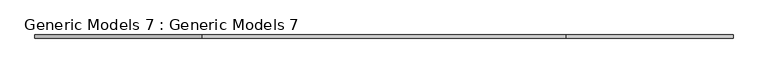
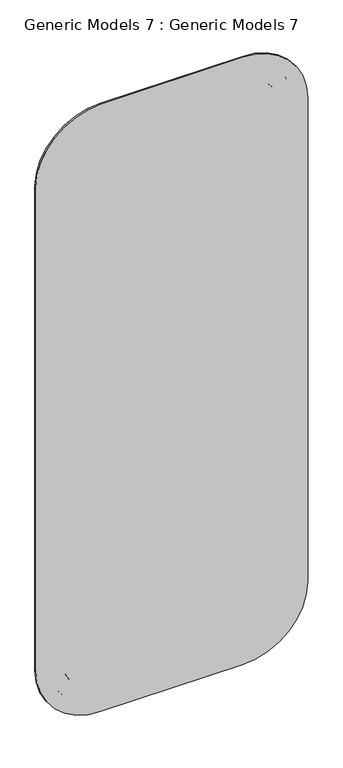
"""IFC4 building model written with IfcOpenShell, lengths in millimetres: proxy geometry, Generic Models 7 : Generic Models 7."""

from ifc_helpers import new_model, si_unit, frame, origin, place, context, project, spatial, polyline, circle_curve, source, transform, mapped, element, save
from ifc_brep_helpers import plane_surface, cylinder_surface, revolved_surface, advanced_brep


def generic_models_7_generic_models_7_d57c916e(model_context):
    return source(origin(), model_context, "Body", "AdvancedBrep", [
        advanced_brep(
        [(1141.8449565, -8160.4040425, 2500.0), (1661.8449565, -8160.4040425, 2500.0), (1901.8449565, -8160.4040425, 2260.0), (1901.8449565, -8160.4040425, 379.9646491), (1661.8449565, -8160.4040425, 139.9646491), (1141.8449565, -8160.4040425, 139.9646491), (901.8449565, -8160.4040425, 379.9646491), (901.8449565, -8160.4040425, 2260.0), (1851.8449565, -8160.4040425, 2260.0), (1661.8449565, -8160.4040425, 2450.0), (1141.8449565, -8160.4040425, 2450.0), (951.8449565, -8160.4040425, 2260.0), (951.8449565, -8160.4040425, 379.9646491), (1141.8449565, -8160.4040425, 189.9646491), (1661.8449565, -8160.4040425, 189.9646491), (1851.8449565, -8160.4040425, 379.9646491), (1661.8449565, -8160.4040425, 2400.0), (1801.8449565, -8160.4040425, 2260.0), (1801.8449565, -8160.4040425, 379.9646491), (1661.8449565, -8160.4040425, 239.9646491), (1141.8449565, -8160.4040425, 239.9646491), (1001.8449565, -8160.4040425, 379.9646491), (1001.8449565, -8160.4040425, 2260.0), (1141.8449565, -8160.4040425, 2400.0), (1141.8449565, -8165.4040425, 2500.0), (901.8449565, -8165.4040425, 2260.0), (901.8449565, -8165.4040425, 379.9646491), (1141.8449565, -8165.4040425, 139.9646491), (1661.8449565, -8165.4040425, 139.9646491), (1901.8449565, -8165.4040425, 379.9646491), (1901.8449565, -8165.4040425, 2260.0), (1661.8449565, -8165.4040425, 2500.0), (1851.8449565, -8162.4040425, 2260.0), (1661.8449565, -8162.4040425, 2450.0), (1801.8449565, -8162.4040425, 2260.0), (1661.8449565, -8162.4040425, 2400.0), (1851.8449565, -8162.4040425, 379.9646491), (1801.8449565, -8162.4040425, 379.9646491), (1661.8449565, -8162.4040425, 189.9646491), (1661.8449565, -8162.4040425, 239.9646491), (1141.8449565, -8162.4040425, 189.9646491), (1141.8449565, -8162.4040425, 239.9646491), (951.8449565, -8162.4040425, 379.9646491), (1001.8449565, -8162.4040425, 379.9646491), (951.8449565, -8162.4040425, 2260.0), (1001.8449565, -8162.4040425, 2260.0), (1141.8449565, -8162.4040425, 2450.0), (1141.8449565, -8162.4040425, 2400.0)],
        [
            (0, 1),
            (1, 2, circle_curve(frame((1661.8449565, -8160.4040425, 2260.0), z_axis=(0.0, 1.0, 0.0), x_axis=(-1.0, 0.0, 0.0)), 240.0)),
            (2, 3),
            (3, 4, circle_curve(frame((1661.8449565, -8160.4040425, 379.9646491), z_axis=(0.0, 1.0, 0.0), x_axis=(-1.0, 0.0, 0.0)), 240.0)),
            (4, 5),
            (5, 6, circle_curve(frame((1141.8449565, -8160.4040425, 379.9646491), z_axis=(0.0, 1.0, 0.0), x_axis=(-1.0, 0.0, 0.0)), 240.0)),
            (6, 7),
            (7, 0, circle_curve(frame((1141.8449565, -8160.4040425, 2260.0), z_axis=(0.0, 1.0, 0.0), x_axis=(-1.0, 0.0, 0.0)), 240.0)),
            (8, 9, circle_curve(frame((1661.8449565, -8160.4040425, 2260.0), z_axis=(0.0, -1.0, 0.0), x_axis=(0.0, 0.0, 1.0)), 190.0)),
            (9, 10),
            (10, 11, circle_curve(frame((1141.8449565, -8160.4040425, 2260.0), z_axis=(0.0, -1.0, 0.0), x_axis=(-1.0, 0.0, 0.0)), 190.0)),
            (11, 12),
            (12, 13, circle_curve(frame((1141.8449565, -8160.4040425, 379.9646491), z_axis=(0.0, -1.0, 0.0), x_axis=(0.0, 0.0, -1.0)), 190.0)),
            (13, 14),
            (14, 15, circle_curve(frame((1661.8449565, -8160.4040425, 379.9646491), z_axis=(0.0, -1.0, 0.0), x_axis=(1.0, 0.0, 0.0)), 190.0)),
            (15, 8),
            (16, 17, circle_curve(frame((1661.8449565, -8160.4040425, 2260.0), z_axis=(0.0, 1.0, 0.0), x_axis=(0.0, 0.0, 1.0)), 140.0)),
            (17, 18),
            (18, 19, circle_curve(frame((1661.8449565, -8160.4040425, 379.9646491), z_axis=(0.0, 1.0, 0.0), x_axis=(1.0, 0.0, 0.0)), 140.0)),
            (19, 20),
            (20, 21, circle_curve(frame((1141.8449565, -8160.4040425, 379.9646491), z_axis=(0.0, 1.0, 0.0), x_axis=(0.0, 0.0, -1.0)), 140.0)),
            (21, 22),
            (22, 23, circle_curve(frame((1141.8449565, -8160.4040425, 2260.0), z_axis=(0.0, 1.0, 0.0), x_axis=(-1.0, 0.0, 0.0)), 140.0)),
            (23, 16),
            (24, 25, circle_curve(frame((1141.8449565, -8165.4040425, 2260.0), z_axis=(0.0, -1.0, 0.0), x_axis=(-1.0, 0.0, 0.0)), 240.0)),
            (25, 26),
            (26, 27, circle_curve(frame((1141.8449565, -8165.4040425, 379.9646491), z_axis=(0.0, -1.0, 0.0), x_axis=(-1.0, 0.0, 0.0)), 240.0)),
            (27, 28),
            (28, 29, circle_curve(frame((1661.8449565, -8165.4040425, 379.9646491), z_axis=(0.0, -1.0, 0.0), x_axis=(-1.0, 0.0, 0.0)), 240.0)),
            (29, 30),
            (30, 31, circle_curve(frame((1661.8449565, -8165.4040425, 2260.0), z_axis=(0.0, -1.0, 0.0), x_axis=(-1.0, 0.0, 0.0)), 240.0)),
            (31, 24),
            (0, 24),
            (31, 1),
            (2, 30),
            (29, 3),
            (4, 28),
            (27, 5),
            (6, 26),
            (25, 7),
            (8, 32),
            (32, 33, circle_curve(frame((1661.8449565, -8162.4040425, 2260.0), z_axis=(0.0, -1.0, 0.0), x_axis=(0.0, 0.0, 1.0)), 190.0)),
            (33, 9),
            (34, 17),
            (16, 35),
            (35, 34, circle_curve(frame((1661.8449565, -8162.4040425, 2260.0), z_axis=(0.0, 1.0, 0.0), x_axis=(0.0, 0.0, 1.0)), 140.0)),
            (15, 36),
            (36, 32),
            (34, 37),
            (37, 18),
            (14, 38),
            (38, 36, circle_curve(frame((1661.8449565, -8162.4040425, 379.9646491), z_axis=(0.0, -1.0, 0.0), x_axis=(1.0, 0.0, 0.0)), 190.0)),
            (37, 39, circle_curve(frame((1661.8449565, -8162.4040425, 379.9646491), z_axis=(0.0, 1.0, 0.0), x_axis=(1.0, 0.0, 0.0)), 140.0)),
            (39, 19),
            (13, 40),
            (40, 38),
            (39, 41),
            (41, 20),
            (12, 42),
            (42, 40, circle_curve(frame((1141.8449565, -8162.4040425, 379.9646491), z_axis=(0.0, -1.0, 0.0), x_axis=(0.0, 0.0, -1.0)), 190.0)),
            (41, 43, circle_curve(frame((1141.8449565, -8162.4040425, 379.9646491), z_axis=(0.0, 1.0, 0.0), x_axis=(0.0, 0.0, -1.0)), 140.0)),
            (43, 21),
            (11, 44),
            (44, 42),
            (43, 45),
            (45, 22),
            (10, 46),
            (46, 44, circle_curve(frame((1141.8449565, -8162.4040425, 2260.0), z_axis=(0.0, -1.0, 0.0), x_axis=(-1.0, 0.0, 0.0)), 190.0)),
            (45, 47, circle_curve(frame((1141.8449565, -8162.4040425, 2260.0), z_axis=(0.0, 1.0, 0.0), x_axis=(-1.0, 0.0, 0.0)), 140.0)),
            (47, 23),
            (33, 46),
            (47, 35),
        ],
        [
            plane_surface(frame((1818.8759677, -8160.4040425, 2500.0), z_axis=(0.0, 1.0, 0.0), x_axis=(1.0, 0.0, 0.0))),
            plane_surface(frame((1818.8759677, -8165.4040425, 2500.0), z_axis=(0.0, -1.0, 0.0), x_axis=(-1.0, 0.0, 0.0))),
            plane_surface(frame((1141.8449565, -8160.4040425, 2500.0), z_axis=(0.0, 0.0, 1.0), x_axis=(0.0, -1.0, 0.0))),
            plane_surface(frame((1901.8449565, -8160.4040425, 2260.0), z_axis=(1.0, 0.0, 0.0), x_axis=(0.0, -1.0, 0.0))),
            plane_surface(frame((1661.8449565, -8160.4040425, 139.9646491), z_axis=(0.0, 0.0, -1.0), x_axis=(0.0, -1.0, 0.0))),
            plane_surface(frame((901.8449565, -8160.4040425, 379.9646491), z_axis=(-1.0, 0.0, 0.0), x_axis=(0.0, -1.0, 0.0))),
            cylinder_surface(frame((1661.8449565, -8165.4040425, 2260.0), z_axis=(0.0, 1.0, 0.0), x_axis=(-1.0, 0.0, 0.0)), 240.0),
            cylinder_surface(frame((1661.8449565, -8165.4040425, 379.9646491), z_axis=(0.0, 1.0, 0.0), x_axis=(-1.0, 0.0, 0.0)), 240.0),
            cylinder_surface(frame((1141.8449565, -8165.4040425, 379.9646491), z_axis=(0.0, 1.0, 0.0), x_axis=(-1.0, 0.0, 0.0)), 240.0),
            cylinder_surface(frame((1141.8449565, -8165.4040425, 2260.0), z_axis=(0.0, 1.0, 0.0), x_axis=(-1.0, 0.0, 0.0)), 240.0),
            revolved_surface(polyline([(1661.8449565, -8160.4040425, 2450.0), (1661.8449565, -8162.4040425, 2450.0)]), (1661.8449565, -8160.4040425, 2260.0), (0.0, 1.0, 0.0)),
            cylinder_surface(frame((1661.8449565, -8160.4040425, 2260.0), z_axis=(0.0, 1.0, 0.0), x_axis=(0.0, 0.0, 1.0)), 140.0),
            plane_surface(frame((1851.8449565, -8162.4040425, 2260.0), z_axis=(-1.0, 0.0, 0.0), x_axis=(0.0, 0.0, -1.0))),
            plane_surface(frame((1801.8449565, -8160.4040425, 2260.0), z_axis=(1.0, 0.0, 0.0), x_axis=(0.0, 0.0, -1.0))),
            revolved_surface(polyline([(1851.8449565, -8160.4040425, 379.9646491), (1851.8449565, -8162.4040425, 379.9646491)]), (1661.8449565, -8160.4040425, 379.9646491), (0.0, 1.0, 0.0)),
            cylinder_surface(frame((1661.8449565, -8160.4040425, 379.9646491), z_axis=(0.0, 1.0, 0.0), x_axis=(1.0, 0.0, 0.0)), 140.0),
            plane_surface(frame((1661.8449565, -8162.4040425, 189.9646491), z_axis=(0.0, 0.0, 1.0), x_axis=(-1.0, 0.0, 0.0))),
            plane_surface(frame((1661.8449565, -8160.4040425, 239.9646491), z_axis=(0.0, 0.0, -1.0), x_axis=(-1.0, 0.0, 0.0))),
            revolved_surface(polyline([(1141.8449565, -8160.4040425, 189.96464909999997), (1141.8449565, -8162.4040425, 189.96464909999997)]), (1141.8449565, -8160.4040425, 379.9646491), (0.0, 1.0, 0.0)),
            cylinder_surface(frame((1141.8449565, -8160.4040425, 379.9646491), z_axis=(0.0, 1.0, 0.0), x_axis=(0.0, 0.0, -1.0)), 140.0),
            plane_surface(frame((951.8449565, -8162.4040425, 379.9646491), z_axis=(1.0, 0.0, 0.0), x_axis=(0.0, 0.0, 1.0))),
            plane_surface(frame((1001.8449565, -8160.4040425, 379.9646491), z_axis=(-1.0, 0.0, 0.0), x_axis=(0.0, 0.0, 1.0))),
            revolved_surface(polyline([(951.8449565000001, -8160.4040425, 2260.0), (951.8449565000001, -8162.4040425, 2260.0)]), (1141.8449565, -8160.4040425, 2260.0), (0.0, 1.0, 0.0)),
            cylinder_surface(frame((1141.8449565, -8160.4040425, 2260.0), z_axis=(0.0, 1.0, 0.0), x_axis=(-1.0, 0.0, 0.0)), 140.0),
            plane_surface(frame((1141.8449565, -8162.4040425, 2450.0), z_axis=(0.0, 0.0, -1.0), x_axis=(1.0, 0.0, 0.0))),
            plane_surface(frame((1141.8449565, -8160.4040425, 2400.0), z_axis=(0.0, 0.0, 1.0), x_axis=(1.0, 0.0, 0.0))),
            plane_surface(frame((1141.8449565, -8162.4040425, 2400.0), z_axis=(0.0, 1.0, 0.0), x_axis=(1.0, 0.0, 0.0))),
        ],
        [
            (0, [[1, 2, 3, 4, 5, 6, 7, 8], [9, 10, 11, 12, 13, 14, 15, 16]]),
            (0, [[17, 18, 19, 20, 21, 22, 23, 24]]),
            (1, [[25, 26, 27, 28, 29, 30, 31, 32]]),
            (2, [[-1, 33, -32, 34]]),
            (3, [[-3, 35, -30, 36]]),
            (4, [[-5, 37, -28, 38]]),
            (5, [[-7, 39, -26, 40]]),
            (6, [[-2, -34, -31, -35]]),
            (7, [[-4, -36, -29, -37]]),
            (8, [[-6, -38, -27, -39]]),
            (9, [[-8, -40, -25, -33]]),
            (10, [[41, 42, 43, -9]]),
            (11, [[44, -17, 45, 46]]),
            (12, [[-41, -16, 47, 48]]),
            (13, [[-44, 49, 50, -18]]),
            (14, [[-47, -15, 51, 52]]),
            (15, [[-50, 53, 54, -19]]),
            (16, [[-51, -14, 55, 56]]),
            (17, [[-54, 57, 58, -20]]),
            (18, [[-55, -13, 59, 60]]),
            (19, [[-58, 61, 62, -21]]),
            (20, [[-59, -12, 63, 64]]),
            (21, [[-62, 65, 66, -22]]),
            (22, [[-63, -11, 67, 68]]),
            (23, [[-66, 69, 70, -23]]),
            (24, [[-43, 71, -67, -10]]),
            (25, [[-45, -24, -70, 72]]),
            (26, [[-42, -48, -52, -56, -60, -64, -68, -71], [-46, -72, -69, -65, -61, -57, -53, -49]]),
        ],
    ),
    ])


if __name__ == "__main__":
    model = new_model("IFC4")
    model_context = context("Model", 3, world=origin())
    ifc_project = project(units=[si_unit("LENGTHUNIT", "METRE", prefix="MILLI")], contexts=[model_context])
    site = spatial("IfcSite", under=ifc_project)
    building = spatial("IfcBuilding", under=site)
    placement = place(None, origin())
    generic_models_7_generic_models_7_shape = generic_models_7_generic_models_7_d57c916e(model_context)
    element("IfcBuildingElementProxy", 1, Name="Generic Models 7 : Generic Models 7", ObjectType="Generic Models 7 : Generic Models 7", at=placement, inside=building, context=model_context, shape_type="MappedRepresentation", body=[
        mapped(generic_models_7_generic_models_7_shape, transform((0.0, 0.0, 0.0), x_axis=(1.0, 0.0, 0.0), y_axis=(0.0, 1.0, 0.0), z_axis=(0.0, 0.0, 1.0))),
    ])
    save(model, "model.ifc")
